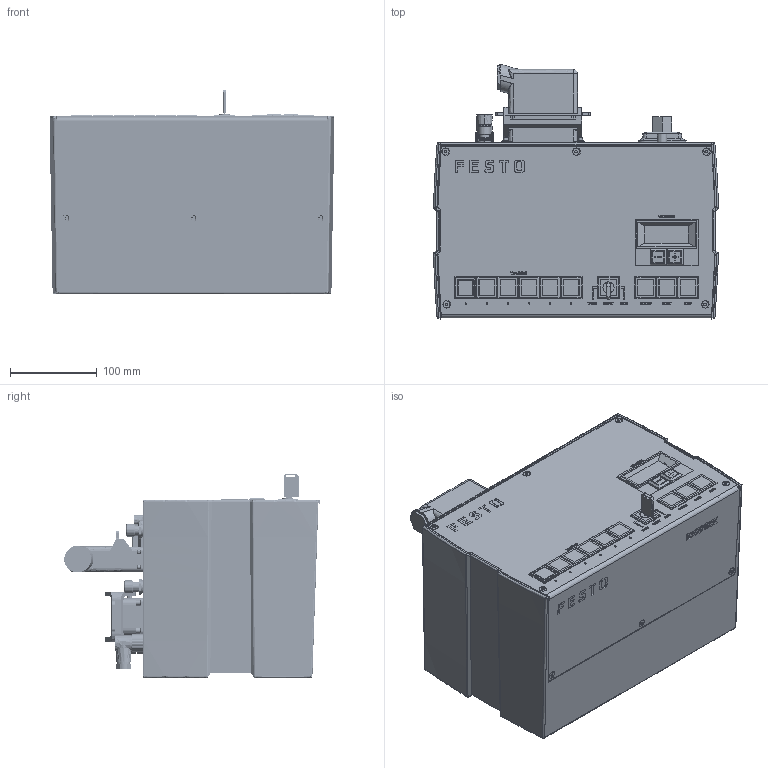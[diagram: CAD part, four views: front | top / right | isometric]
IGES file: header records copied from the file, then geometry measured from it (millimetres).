
Global section: file name: ahp.igs; native system: OneSpace Designer 3D IGES; preprocessor: 11.60B  24-Nov-2002; date: 20030129.100844; units: millimetre
Bounding box: 328.63 x 294.7 x 234.8 mm (x, y, z)
Surface area: 1004476.1 mm2 (no closed solid volume)
Topology: 0 solids, 0 shells, 7718 faces, 59861 edges, 59861 vertices
Faces by surface type: bspline 7059, revolution 659
